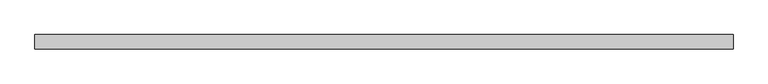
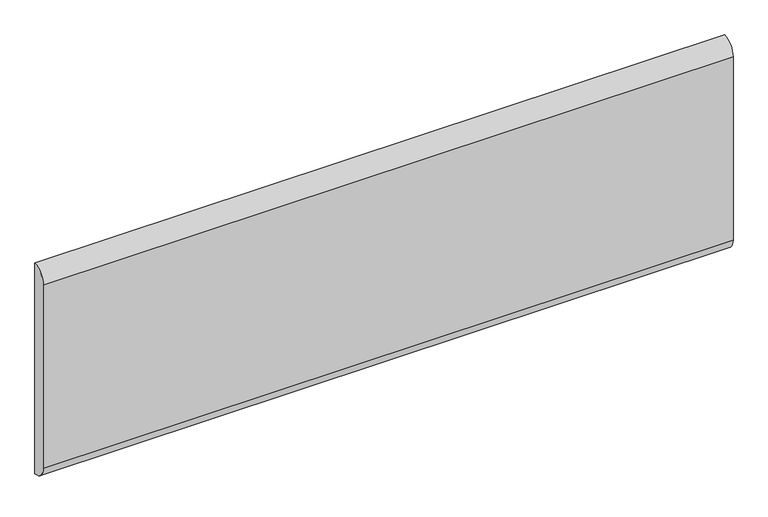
"""IFC4 building model written with IfcOpenShell, lengths in millimetres: furniture geometry."""

from ifc_helpers import new_model, si_unit, point, frame, frame_2d, origin, place, context, project, spatial, polyline, circle_curve, trimmed, segment, composite_curve, outline, extrude, source, transform, mapped, element, save


def furniture_0a03e707(model_context):
    return source(origin(), model_context, "Body", "SweptSolid", [
        extrude(outline(composite_curve([segment(trimmed(circle_curve(frame_2d((12.7, 711.2)), 25.4), [point((12.7, 685.8))], [point((-12.7, 711.2))], False, "CARTESIAN"), True, "CONTINUOUS"), segment(polyline([(-12.7, 711.2), (-12.7, 1054.1)]), True, "CONTINUOUS"), segment(trimmed(circle_curve(frame_2d((12.7, 1054.1)), 25.4), [point((-12.7, 1054.1))], [point((12.7, 1079.5))], False, "CARTESIAN"), True, "CONTINUOUS"), segment(polyline([(12.7, 1079.5), (12.7, 685.8)]), True, "CONTINUOUS")], self_intersect=False)), frame((-609.6, 0.0, 0.0), z_axis=(1.0, 0.0, 0.0), x_axis=(0.0, 1.0, 0.0)), (0.0, 0.0, 1.0), 1219.2),
    ])


if __name__ == "__main__":
    model = new_model("IFC4")
    model_context = context("Model", 3, world=origin())
    ifc_project = project(units=[si_unit("LENGTHUNIT", "METRE", prefix="MILLI")], contexts=[model_context])
    site = spatial("IfcSite", under=ifc_project)
    building = spatial("IfcBuilding", under=site)
    placement = place(None, origin())
    furniture_shape = furniture_0a03e707(model_context)
    element("IfcFurniture", 1, ObjectType="HermanMiller_ActionOffice_A3410_B-StyleTackboard : 16\"H x 48\"W", at=placement, inside=building, context=model_context, shape_type="MappedRepresentation", body=[
        mapped(furniture_shape, transform((0.0, 0.0, 0.0), x_axis=(1.0, 0.0, 0.0), y_axis=(0.0, 1.0, 0.0), z_axis=(0.0, 0.0, 1.0))),
    ])
    save(model, "model.ifc")
